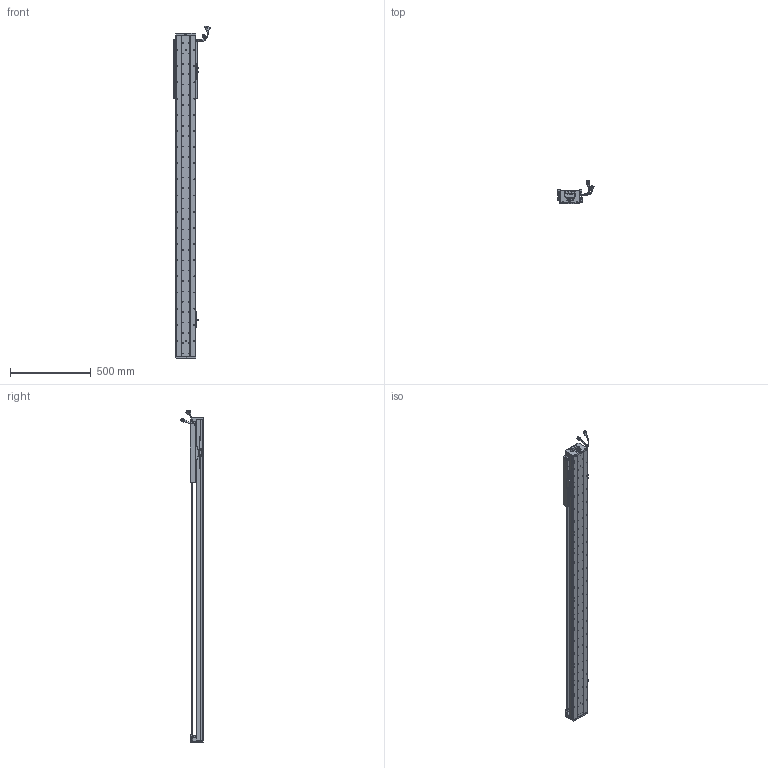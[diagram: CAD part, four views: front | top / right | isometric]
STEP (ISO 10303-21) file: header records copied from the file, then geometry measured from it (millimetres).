
FILE_DESCRIPTION (( 'STEP AP203' ), '1' );
FILE_NAME ('Z5-RY120D-1-L500-B-K.SLDASM_1550.step', '2021-05-17T06:23:20', ( '盈信电脑' ), ( '东莞市道滘镇水果街19号' ), 'SwSTEP 2.0', 'SolidWorks 2016', '' );
FILE_SCHEMA (( 'CONFIG_CONTROL_DESIGN' ));
Length unit declared in the file: millimetre
Products named in the file (37): SCALE; HARNESS-Part-2; 覜茼ん672; 080黍杅芛假蚾釱21遴; SCREW-M1.6-3; SCALE-Part-2; COVER; SEAL-Part-1; Z5-RY120铝滑块（21款）; RY100FB-遵嫖萇覜茼え; Z5-RY120-L500詩湍100mm遵_1550; SEAL; COVER-Part-1; LABEL-Part-1; SHIELDPLATE; LABEL; SCREW-M1.6-1; Z5-RY120-500-倰第菁釱_1550; SCREW-M1.7-1; SCREW-M1.6; SCREW-M1.7; Z-RY120D詩湍奻揤裔; PBU_SHEET; HARNESS; 140雄赽晤鎢ん堤盄; SCREW-M1.6-2; Z-120詩湍傷裔啣; SCALE-Part-1; HOLDER0; Z-RY120D詩湍狟揤裔; 140蚥薯蝶輸; Z5-RY120D-1-L500-B-K.SLDASM_1550; PSLH080_PSLF2; 榋妏寠巭燃_暯_M2_2; 120-Z-臏賑輸盄裔(21遴); HARNESS-Part-1; 672嫖萇羲壽假蚾釱
Assembly tree (43 placements, depth 4):
  Z5-RY120D-1-L500-B-K.SLDASM_1550
    Z5-RY120-500-倰第菁釱_1550
    覜茼ん672  x3
    672嫖萇羲壽假蚾釱  x2
    Z5-RY120铝滑块（21款）
    PSLH080_PSLF2
      SCALE
        SCALE-Part-1
        SCALE-Part-2
      HARNESS
        HARNESS-Part-1
        HARNESS-Part-2
      LABEL
        LABEL-Part-1
      COVER
        COVER-Part-1
      SEAL
        SEAL-Part-1
      榋妏寠巭燃_暯_M2_2
      SHIELDPLATE
      SCREW-M1.7
      SCREW-M1.7-1
      PBU_SHEET
      SCREW-M1.6
      SCREW-M1.6-1
      SCREW-M1.6-2
      SCREW-M1.6-3
      HOLDER0
    080黍杅芛假蚾釱21遴
    120-Z-臏賑輸盄裔(21遴)
    140雄赽晤鎢ん堤盄
    140蚥薯蝶輸  x2
    RY100FB-遵嫖萇覜茼え
    Z-120詩湍傷裔啣  x2
    Z-RY120D詩湍奻揤裔  x2
    Z-RY120D詩湍狟揤裔  x2
    Z5-RY120-L500詩湍100mm遵_1550
Bounding box: 222.88 x 140.94 x 2053.99 mm (x, y, z)
Volume: 5372232.2 mm3; surface area: 1794223.9 mm2
Topology: 38 solids, 38 shells, 3373 faces, 9405 edges, 5938 vertices
Faces by surface type: cylinder 1707, plane 1202, cone 342, torus 69, bspline 53
Entity records: 108748 total; most frequent: CARTESIAN_POINT 31529, ORIENTED_EDGE 15650, DIRECTION 14813, EDGE_CURVE 7825, AXIS2_PLACEMENT_3D 5484, VERTEX_POINT 5058, LINE 3845, VECTOR 3845
